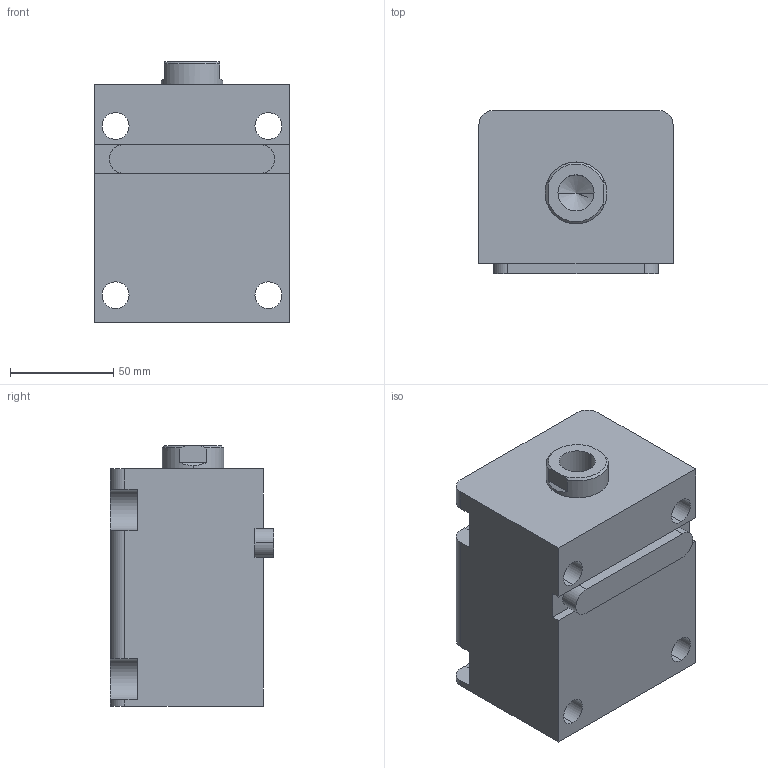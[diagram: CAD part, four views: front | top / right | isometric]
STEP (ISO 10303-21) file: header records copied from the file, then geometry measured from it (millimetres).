
FILE_DESCRIPTION (( 'STEP AP203' ), '1' );
FILE_NAME ('HTB-LA50-55N.STEP', '2019-10-09T07:10:14', ( '微软用户' ), ( '微软中国' ), 'SwSTEP 2.0', 'SolidWorks 2012', '' );
FILE_SCHEMA (( 'CONFIG_CONTROL_DESIGN' ));
Length unit declared in the file: millimetre
Products named in the file (4): HTB-LA50-瑩; HTB-LA50-55N活塞杆; HTB-LA50-55掛极; HTB-LA50-55N
Assembly tree (3 placements, depth 2):
  HTB-LA50-55N
    HTB-LA50-55掛极
    HTB-LA50-55N活塞杆
    HTB-LA50-瑩
Bounding box: 94 x 79 x 126 mm (x, y, z)
Volume: 681198.2 mm3; surface area: 102271 mm2
Topology: 3 solids, 3 shells, 86 faces, 213 edges, 139 vertices
Faces by surface type: plane 39, cylinder 35, cone 8, torus 4
Entity records: 3001 total; most frequent: DIRECTION 475, CARTESIAN_POINT 470, ORIENTED_EDGE 422, EDGE_CURVE 211, AXIS2_PLACEMENT_3D 180, VERTEX_POINT 139, LINE 115, VECTOR 115
